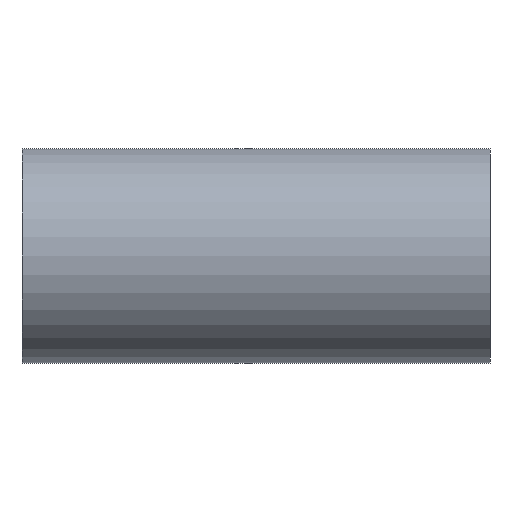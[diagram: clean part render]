
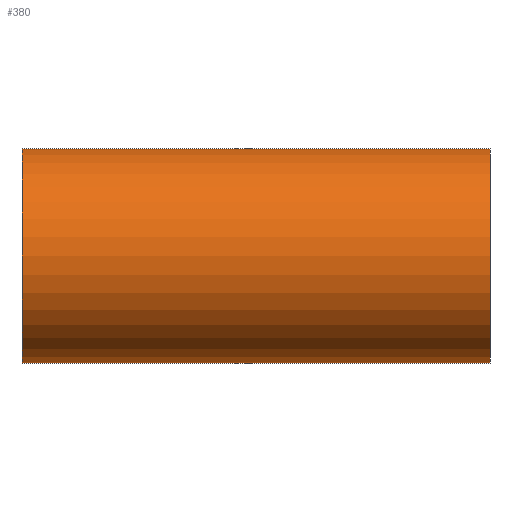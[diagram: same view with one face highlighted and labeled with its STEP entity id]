
A CAD part, front view. The second image highlights one B-rep face of the part: STEP entity #380.
In plain terms, the highlighted cylindrical face has radius 10.075 mm (diameter 20.15 mm), a full revolution.
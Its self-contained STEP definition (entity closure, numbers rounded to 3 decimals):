
#18=FACE_BOUND('',#69,.T.);
#47=FACE_OUTER_BOUND('',#68,.T.);
#68=EDGE_LOOP('',(#340,#341,#342,#343));
#69=EDGE_LOOP('',(#344,#345,#346));
#81=LINE('',#1251,#87);
#87=VECTOR('',#526,10.075);
#107=CIRCLE('',#442,10.075);
#108=CIRCLE('',#443,10.075);
#137=B_SPLINE_CURVE_WITH_KNOTS('',3,(#1168,#1169,#1170,#1171,#1172,#1173,
#1174,#1175,#1176,#1177,#1178,#1179,#1180,#1181,#1182,#1183,#1184,#1185,
#1186,#1187,#1188,#1189,#1190,#1191,#1192,#1193,#1194,#1195,#1196,#1197,
#1198,#1199,#1200,#1201,#1202,#1203,#1204,#1205,#1206,#1207,#1208,#1209,
#1210,#1211,#1212,#1213),.UNSPECIFIED.,.F.,.F.,(4,3,3,3,3,3,3,3,3,3,3,3,
3,3,3,4),(-5.357,-5.166,-4.974,-4.592,
-4.337,-4.081,-3.954,-3.89,
-3.826,-3.316,-3.061,-2.806,
-2.678,-2.551,-2.296,-2.09),
 .UNSPECIFIED.);
#138=B_SPLINE_CURVE_WITH_KNOTS('',3,(#1215,#1216,#1217,#1218,#1219,#1220,
#1221,#1222,#1223,#1224,#1225,#1226,#1227,#1228,#1229,#1230,#1231,#1232,
#1233,#1234,#1235,#1236),.UNSPECIFIED.,.F.,.F.,(4,3,3,3,3,3,3,4),(-2.09,
-2.041,-1.786,-1.531,-1.339,
-1.148,-0.765,-0.588),.UNSPECIFIED.);
#139=B_SPLINE_CURVE_WITH_KNOTS('',3,(#1237,#1238,#1239,#1240,#1241,#1242,
#1243,#1244,#1245,#1246),.UNSPECIFIED.,.F.,.F.,(4,3,3,4),(-0.588,
-0.383,-0.191,0.),.UNSPECIFIED.);
#174=VERTEX_POINT('',#1165);
#175=VERTEX_POINT('',#1167);
#176=VERTEX_POINT('',#1214);
#177=VERTEX_POINT('',#1248);
#178=VERTEX_POINT('',#1250);
#231=EDGE_CURVE('',#174,#175,#137,.T.);
#232=EDGE_CURVE('',#175,#176,#138,.T.);
#233=EDGE_CURVE('',#176,#174,#139,.T.);
#234=EDGE_CURVE('',#177,#177,#107,.T.);
#235=EDGE_CURVE('',#177,#178,#81,.T.);
#236=EDGE_CURVE('',#178,#178,#108,.T.);
#340=ORIENTED_EDGE('',*,*,#234,.F.);
#341=ORIENTED_EDGE('',*,*,#235,.T.);
#342=ORIENTED_EDGE('',*,*,#236,.T.);
#343=ORIENTED_EDGE('',*,*,#235,.F.);
#344=ORIENTED_EDGE('',*,*,#231,.F.);
#345=ORIENTED_EDGE('',*,*,#233,.F.);
#346=ORIENTED_EDGE('',*,*,#232,.F.);
#362=CYLINDRICAL_SURFACE('',#441,10.075);
#380=ADVANCED_FACE('',(#47,#18),#362,.T.);
#441=AXIS2_PLACEMENT_3D('',#1247,#522,#523);
#442=AXIS2_PLACEMENT_3D('',#1249,#524,#525);
#443=AXIS2_PLACEMENT_3D('',#1252,#527,#528);
#522=DIRECTION('center_axis',(1.,0.,0.));
#523=DIRECTION('ref_axis',(0.,1.,0.));
#524=DIRECTION('center_axis',(1.,0.,0.));
#525=DIRECTION('ref_axis',(0.,1.,0.));
#526=DIRECTION('',(-1.,0.,0.));
#527=DIRECTION('center_axis',(1.,0.,0.));
#528=DIRECTION('ref_axis',(0.,1.,0.));
#1165=CARTESIAN_POINT('',(0.,4.961,8.769));
#1167=CARTESIAN_POINT('',(-7.713,7.423,-6.812));
#1168=CARTESIAN_POINT('Ctrl Pts',(0.,4.961,
8.769));
#1169=CARTESIAN_POINT('Ctrl Pts',(0.984,4.961,8.769));
#1170=CARTESIAN_POINT('Ctrl Pts',(1.96,5.124,8.681));
#1171=CARTESIAN_POINT('Ctrl Pts',(2.864,5.368,8.526));
#1172=CARTESIAN_POINT('Ctrl Pts',(3.768,5.613,8.371));
#1173=CARTESIAN_POINT('Ctrl Pts',(4.6,5.94,8.15));
#1174=CARTESIAN_POINT('Ctrl Pts',(5.381,6.283,7.877));
#1175=CARTESIAN_POINT('Ctrl Pts',(6.941,6.97,7.33));
#1176=CARTESIAN_POINT('Ctrl Pts',(8.294,7.721,6.575));
#1177=CARTESIAN_POINT('Ctrl Pts',(9.417,8.37,5.607));
#1178=CARTESIAN_POINT('Ctrl Pts',(10.165,8.803,4.962));
#1179=CARTESIAN_POINT('Ctrl Pts',(10.811,9.191,4.222));
#1180=CARTESIAN_POINT('Ctrl Pts',(11.296,9.486,3.394));
#1181=CARTESIAN_POINT('Ctrl Pts',(11.78,9.781,2.566));
#1182=CARTESIAN_POINT('Ctrl Pts',(12.103,9.984,1.651));
#1183=CARTESIAN_POINT('Ctrl Pts',(12.21,10.05,0.712));
#1184=CARTESIAN_POINT('Ctrl Pts',(12.263,10.084,0.242));
#1185=CARTESIAN_POINT('Ctrl Pts',(12.263,10.083,-0.233));
#1186=CARTESIAN_POINT('Ctrl Pts',(12.21,10.05,-0.703));
#1187=CARTESIAN_POINT('Ctrl Pts',(12.184,10.034,-0.938));
#1188=CARTESIAN_POINT('Ctrl Pts',(12.145,10.009,-1.172));
#1189=CARTESIAN_POINT('Ctrl Pts',(12.092,9.977,-1.403));
#1190=CARTESIAN_POINT('Ctrl Pts',(12.04,9.944,-1.635));
#1191=CARTESIAN_POINT('Ctrl Pts',(11.974,9.904,-1.864));
#1192=CARTESIAN_POINT('Ctrl Pts',(11.897,9.857,-2.089));
#1193=CARTESIAN_POINT('Ctrl Pts',(11.279,9.476,-3.888));
#1194=CARTESIAN_POINT('Ctrl Pts',(9.923,8.628,-5.397));
#1195=CARTESIAN_POINT('Ctrl Pts',(8.217,7.695,-6.505));
#1196=CARTESIAN_POINT('Ctrl Pts',(7.364,7.229,-7.058));
#1197=CARTESIAN_POINT('Ctrl Pts',(6.423,6.741,-7.511));
#1198=CARTESIAN_POINT('Ctrl Pts',(5.382,6.283,-7.875));
#1199=CARTESIAN_POINT('Ctrl Pts',(4.34,5.824,-8.239));
#1200=CARTESIAN_POINT('Ctrl Pts',(3.199,5.395,-8.514));
#1201=CARTESIAN_POINT('Ctrl Pts',(1.942,5.154,-8.658));
#1202=CARTESIAN_POINT('Ctrl Pts',(1.314,5.033,-8.73));
#1203=CARTESIAN_POINT('Ctrl Pts',(0.656,4.96,-8.769));
#1204=CARTESIAN_POINT('Ctrl Pts',(-0.001,4.96,
-8.769));
#1205=CARTESIAN_POINT('Ctrl Pts',(-0.659,4.961,-8.769));
#1206=CARTESIAN_POINT('Ctrl Pts',(-1.317,5.034,-8.729));
#1207=CARTESIAN_POINT('Ctrl Pts',(-1.945,5.155,-8.657));
#1208=CARTESIAN_POINT('Ctrl Pts',(-3.202,5.396,-8.513));
#1209=CARTESIAN_POINT('Ctrl Pts',(-4.341,5.825,-8.242));
#1210=CARTESIAN_POINT('Ctrl Pts',(-5.381,6.282,-7.877));
#1211=CARTESIAN_POINT('Ctrl Pts',(-6.221,6.652,-7.583));
#1212=CARTESIAN_POINT('Ctrl Pts',(-6.997,7.041,-7.227));
#1213=CARTESIAN_POINT('Ctrl Pts',(-7.713,7.423,-6.812));
#1214=CARTESIAN_POINT('',(-7.715,7.421,6.815));
#1215=CARTESIAN_POINT('Ctrl Pts',(-7.713,7.423,-6.812));
#1216=CARTESIAN_POINT('Ctrl Pts',(-7.883,7.513,-6.713));
#1217=CARTESIAN_POINT('Ctrl Pts',(-8.05,7.604,-6.61));
#1218=CARTESIAN_POINT('Ctrl Pts',(-8.214,7.693,-6.504));
#1219=CARTESIAN_POINT('Ctrl Pts',(-9.065,8.159,-5.954));
#1220=CARTESIAN_POINT('Ctrl Pts',(-9.824,8.602,-5.311));
#1221=CARTESIAN_POINT('Ctrl Pts',(-10.454,8.979,-4.571));
#1222=CARTESIAN_POINT('Ctrl Pts',(-11.085,9.355,-3.83));
#1223=CARTESIAN_POINT('Ctrl Pts',(-11.587,9.664,-2.992));
#1224=CARTESIAN_POINT('Ctrl Pts',(-11.896,9.855,-2.094));
#1225=CARTESIAN_POINT('Ctrl Pts',(-12.127,9.998,-1.42));
#1226=CARTESIAN_POINT('Ctrl Pts',(-12.25,10.075,-0.713));
#1227=CARTESIAN_POINT('Ctrl Pts',(-12.25,10.075,-0.004));
#1228=CARTESIAN_POINT('Ctrl Pts',(-12.251,10.075,0.705));
#1229=CARTESIAN_POINT('Ctrl Pts',(-12.129,9.999,1.416));
#1230=CARTESIAN_POINT('Ctrl Pts',(-11.898,9.856,2.089));
#1231=CARTESIAN_POINT('Ctrl Pts',(-11.438,9.571,3.435));
#1232=CARTESIAN_POINT('Ctrl Pts',(-10.544,9.023,4.632));
#1233=CARTESIAN_POINT('Ctrl Pts',(-9.421,8.373,5.605));
#1234=CARTESIAN_POINT('Ctrl Pts',(-8.901,8.072,6.055));
#1235=CARTESIAN_POINT('Ctrl Pts',(-8.331,7.749,6.458));
#1236=CARTESIAN_POINT('Ctrl Pts',(-7.715,7.421,6.815));
#1237=CARTESIAN_POINT('Ctrl Pts',(-7.715,7.421,6.815));
#1238=CARTESIAN_POINT('Ctrl Pts',(-7.,7.041,7.229));
#1239=CARTESIAN_POINT('Ctrl Pts',(-6.222,6.653,7.581));
#1240=CARTESIAN_POINT('Ctrl Pts',(-5.384,6.284,7.874));
#1241=CARTESIAN_POINT('Ctrl Pts',(-4.603,5.941,8.148));
#1242=CARTESIAN_POINT('Ctrl Pts',(-3.771,5.614,8.371));
#1243=CARTESIAN_POINT('Ctrl Pts',(-2.866,5.369,8.526));
#1244=CARTESIAN_POINT('Ctrl Pts',(-1.961,5.124,8.681));
#1245=CARTESIAN_POINT('Ctrl Pts',(-0.984,4.961,8.769));
#1246=CARTESIAN_POINT('Ctrl Pts',(0.,4.961,
8.769));
#1247=CARTESIAN_POINT('Origin',(0.,0.,0.));
#1248=CARTESIAN_POINT('',(22.,-10.075,0.));
#1249=CARTESIAN_POINT('Origin',(22.,0.,0.));
#1250=CARTESIAN_POINT('',(-22.,-10.075,0.));
#1251=CARTESIAN_POINT('',(0.,-10.075,0.));
#1252=CARTESIAN_POINT('Origin',(-22.,0.,0.));
